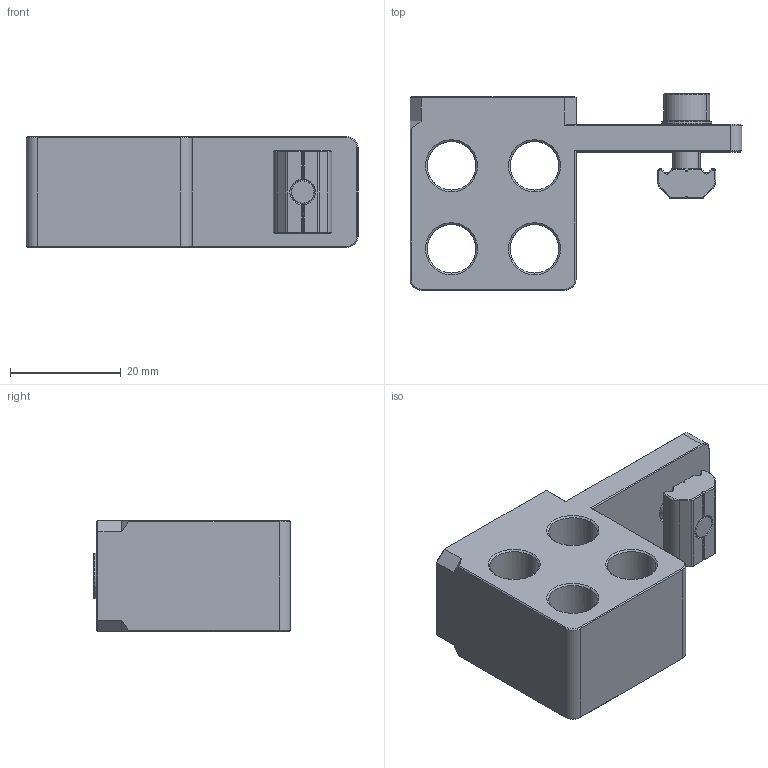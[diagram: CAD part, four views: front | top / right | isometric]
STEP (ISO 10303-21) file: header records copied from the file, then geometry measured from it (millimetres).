
FILE_DESCRIPTION (( 'STEP AP203' ), '1' );
FILE_NAME ('SMB2-D5G18.STEP', '2024-05-09T02:45:36', ( '微软用户' ), ( '微软中国' ), 'SwSTEP 2.0', 'SolidWorks 2018', '' );
FILE_SCHEMA (( 'CONFIG_CONTROL_DESIGN' ));
Length unit declared in the file: millimetre
Products named in the file (5): 2.Y07432; PTC-M5L14; PTN-M5; PTS-M5; SMB2-D5G18
Assembly tree (4 placements, depth 2):
  SMB2-D5G18
    2.Y07432
    PTC-M5L14
    PTN-M5
    PTS-M5
Bounding box: 60 x 35.55 x 20 mm (x, y, z)
Volume: 18113.9 mm3; surface area: 9450 mm2
Topology: 4 solids, 4 shells, 443 faces, 1172 edges, 729 vertices
Faces by surface type: plane 304, cone 69, cylinder 56, bspline 14
Entity records: 14902 total; most frequent: CARTESIAN_POINT 3343, ORIENTED_EDGE 2344, DIRECTION 2315, EDGE_CURVE 1172, AXIS2_PLACEMENT_3D 775, VECTOR 765, LINE 765, VERTEX_POINT 729
